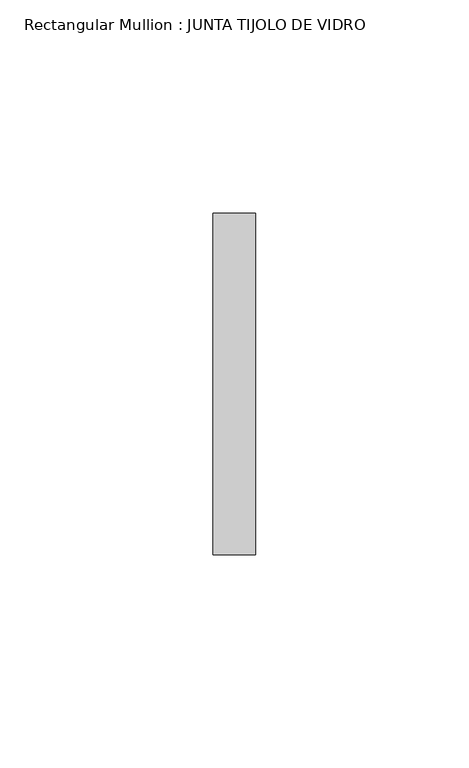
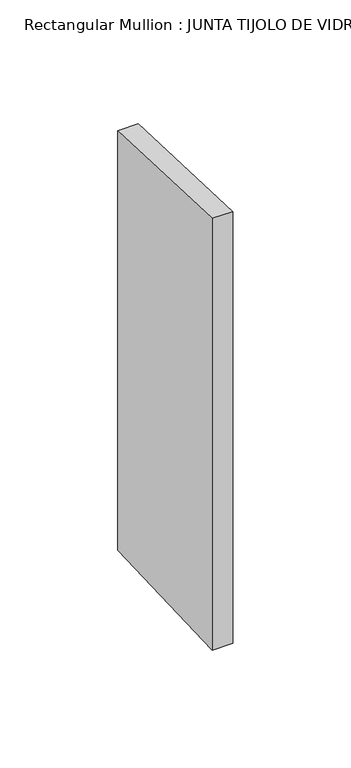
"""IFC4 building model written with IfcOpenShell, lengths in millimetres: member geometry, Rectangular Mullion : JUNTA TIJOLO DE VIDRO."""

from ifc_helpers import new_model, si_unit, frame, origin, place, context, project, spatial, polyline, outline, extrude, source, transform, mapped, element, save


def rectangular_mullion_junta_tijolo_de_vidro_cb1579e5(model_context):
    return source(origin(), model_context, "Body", "SweptSolid", [
        extrude(outline(polyline([(-40.0, 1.5330759), (40.0, -1.5330759), (40.0, -218.7561819), (-40.0, -221.8575793), (-40.0, 1.5330759)])), frame((-10.0, 0.0, 0.0), z_axis=(1.0, 0.0, 0.0), x_axis=(0.0, 1.0, 0.0)), (0.0, 0.0, 1.0), 10.0),
    ])


if __name__ == "__main__":
    model = new_model("IFC4")
    model_context = context("Model", 3, world=origin())
    ifc_project = project(units=[si_unit("LENGTHUNIT", "METRE", prefix="MILLI")], contexts=[model_context])
    site = spatial("IfcSite", under=ifc_project)
    building = spatial("IfcBuilding", under=site)
    placement = place(None, origin())
    rectangular_mullion_junta_tijolo_de_vidro_shape = rectangular_mullion_junta_tijolo_de_vidro_cb1579e5(model_context)
    element("IfcMember", 1, ObjectType="Rectangular Mullion : JUNTA TIJOLO DE VIDRO", at=placement, inside=building, context=model_context, shape_type="MappedRepresentation", body=[
        mapped(rectangular_mullion_junta_tijolo_de_vidro_shape, transform((0.0, 0.0, 0.0), x_axis=(1.0, 0.0, 0.0), y_axis=(0.0, 1.0, 0.0), z_axis=(0.0, 0.0, 1.0))),
    ])
    save(model, "model.ifc")
